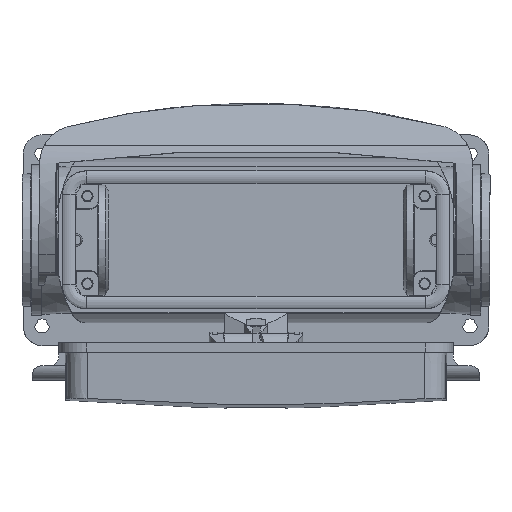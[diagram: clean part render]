
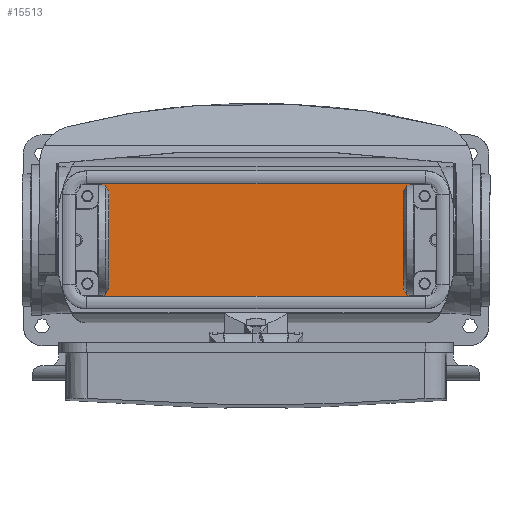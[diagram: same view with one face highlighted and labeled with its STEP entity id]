
A CAD part, top view. The second image highlights one B-rep face of the part: STEP entity #15513.
In plain terms, the highlighted planar face has unit normal (0, 0, 1).
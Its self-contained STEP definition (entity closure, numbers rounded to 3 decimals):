
#10114=PLANE('',#32166);
#11397=LINE('',#43814,#13753);
#11398=LINE('',#43817,#13754);
#11399=LINE('',#43819,#13755);
#11400=LINE('',#43821,#13756);
#13753=VECTOR('',#35710,1.);
#13754=VECTOR('',#35711,1.);
#13755=VECTOR('',#35712,1.);
#13756=VECTOR('',#35713,1.);
#15513=ADVANCED_FACE('',(#16344),#10114,.F.);
#16344=FACE_OUTER_BOUND('',#17192,.T.);
#17192=EDGE_LOOP('',(#20532,#20533,#20534,#20535));
#20532=ORIENTED_EDGE('',*,*,#27463,.F.);
#20533=ORIENTED_EDGE('',*,*,#27464,.T.);
#20534=ORIENTED_EDGE('',*,*,#27465,.F.);
#20535=ORIENTED_EDGE('',*,*,#27466,.T.);
#23830=VERTEX_POINT('',#43815);
#23831=VERTEX_POINT('',#43816);
#23832=VERTEX_POINT('',#43818);
#23833=VERTEX_POINT('',#43820);
#27463=EDGE_CURVE('',#23830,#23831,#11397,.T.);
#27464=EDGE_CURVE('',#23830,#23832,#11398,.T.);
#27465=EDGE_CURVE('',#23833,#23832,#11399,.T.);
#27466=EDGE_CURVE('',#23833,#23831,#11400,.T.);
#32166=AXIS2_PLACEMENT_3D('',#43822,#35714,#35715);
#35710=DIRECTION('',(0.,-1.,0.));
#35711=DIRECTION('',(-1.,0.,0.));
#35712=DIRECTION('',(0.,1.,0.));
#35713=DIRECTION('',(1.,0.,0.));
#35714=DIRECTION('',(0.,0.,-1.));
#35715=DIRECTION('',(-1.,0.,0.));
#43814=CARTESIAN_POINT('',(48.488,0.,-70.2));
#43815=CARTESIAN_POINT('',(48.488,17.425,-70.2));
#43816=CARTESIAN_POINT('',(48.488,-17.425,-70.2));
#43817=CARTESIAN_POINT('',(0.,17.425,-70.2));
#43818=CARTESIAN_POINT('',(-48.488,17.425,-70.2));
#43819=CARTESIAN_POINT('',(-48.488,-13.649,-70.2));
#43820=CARTESIAN_POINT('',(-48.488,-17.425,-70.2));
#43821=CARTESIAN_POINT('',(0.,-17.425,-70.2));
#43822=CARTESIAN_POINT('',(0.,0.,-70.2));
